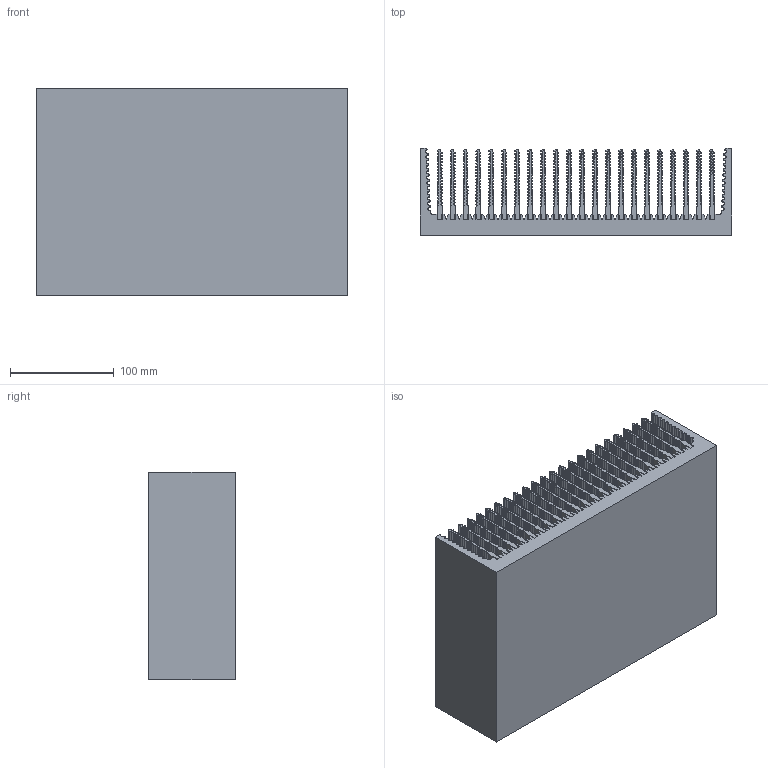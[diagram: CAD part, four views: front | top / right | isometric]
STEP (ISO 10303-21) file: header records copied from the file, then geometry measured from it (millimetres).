
FILE_DESCRIPTION (( 'STEP AP214' ), '1' );
FILE_NAME ('PR255_komplett.STEP', '2013-10-18T15:38:38', ( '' ), ( '' ), 'SwSTEP 2.0', 'SolidWorks 2013', '' );
FILE_SCHEMA (( 'AUTOMOTIVE_DESIGN' ));
Length unit declared in the file: millimetre
Products named in the file (4): PR256_Rippe; PR255_Grundkörper; PR255_komplett
Assembly tree (24 placements, depth 3):
  PR255_komplett
    PR255_Grundkörper
    PR256_Rippe  x22
      PR256_Rippe
Bounding box: 300 x 83.5 x 200 mm (x, y, z)
Volume: 2226014.5 mm3; surface area: 1164733 mm2
Topology: 23 solids, 23 shells, 4242 faces, 12588 edges, 8392 vertices
Faces by surface type: cylinder 2847, plane 1395
Entity records: 16599 total; most frequent: CARTESIAN_POINT 2906, DIRECTION 2903, ORIENTED_EDGE 2874, EDGE_CURVE 1437, LINE 993, VECTOR 993, VERTEX_POINT 958, AXIS2_PLACEMENT_3D 955
